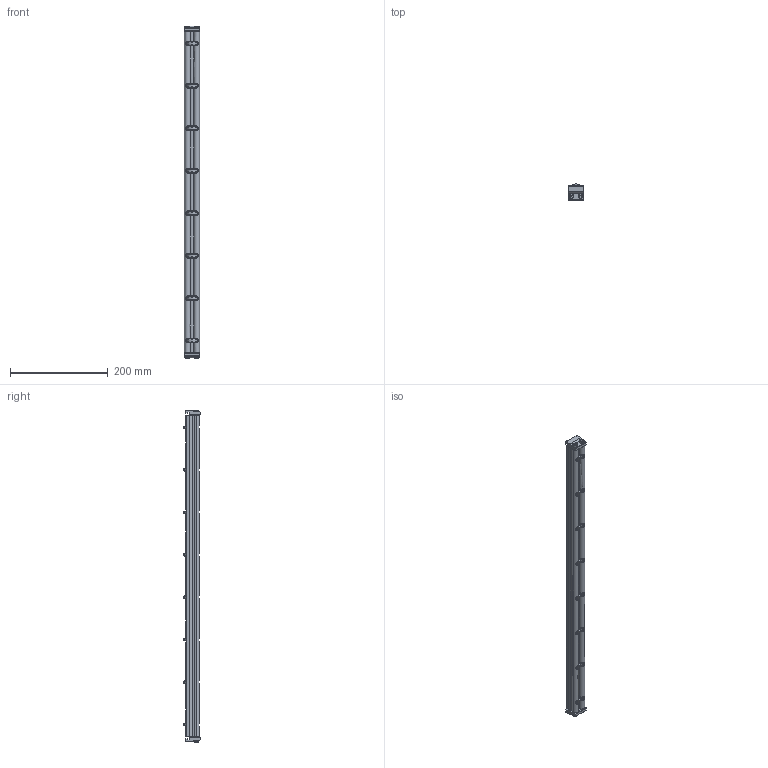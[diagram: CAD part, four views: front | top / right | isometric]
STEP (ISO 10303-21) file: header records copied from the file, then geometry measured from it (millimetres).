
FILE_DESCRIPTION((''),'2;1');
FILE_NAME('206523-26_ASM','2023-02-27T',('jenni.wallner'),(''),'PRO/ENGINEER BY PARAMETRIC TECHNOLOGY CORPORATION, 2012420','PRO/ENGINEER BY PARAMETRIC TECHNOLOGY CORPORATION, 2012420','');
FILE_SCHEMA(('CONFIG_CONTROL_DESIGN'));
Length unit declared in the file: inch
Products named in the file (7): 240826; 9506XXM_950616M; 2436WW_243626; 2410WW_241026; 205977_205978_205979_205978; ASM0001_ASM; 206523-26_ASM
Assembly tree (17 placements, depth 3):
  206523-26_ASM
    ASM0001_ASM
      240826  x8
      9506XXM_950616M  x4
      2436WW_243626
      2410WW_241026
      205977_205978_205979_205978  x2
Bounding box: 30.89 x 33.01 x 680.95 mm (x, y, z)
Volume: 326868.7 mm3; surface area: 194595.3 mm2
Topology: 16 solids, 16 shells, 562 faces, 1570 edges, 1032 vertices
Faces by surface type: cylinder 252, plane 194, cone 84, torus 32
Entity records: 13265 total; most frequent: CARTESIAN_POINT 3420, ORIENTED_EDGE 2146, DIRECTION 2005, EDGE_CURVE 1073, AXIS2_PLACEMENT_3D 749, VERTEX_POINT 714, VECTOR 507, LINE 507
